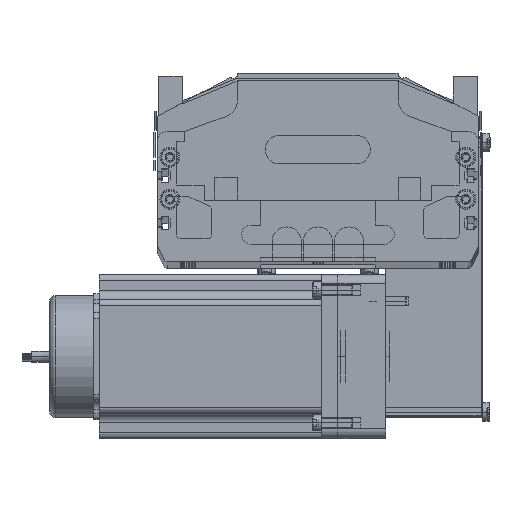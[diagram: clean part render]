
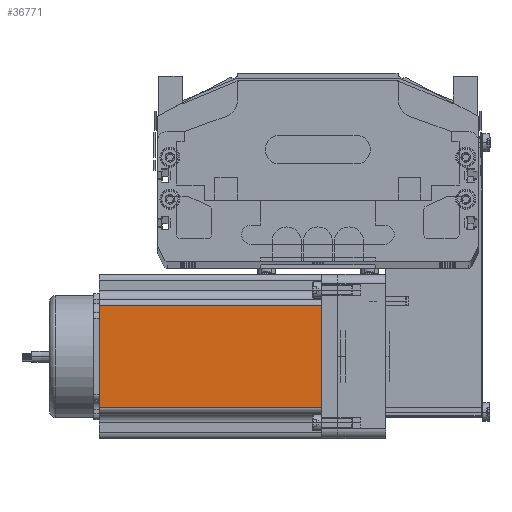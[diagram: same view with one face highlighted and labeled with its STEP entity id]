
A CAD part, top view. The second image highlights one B-rep face of the part: STEP entity #36771.
In plain terms, the highlighted planar face has unit normal (0, 0, 1) as drawn and (0, -1, 0) by its records, which use the part's own axes.
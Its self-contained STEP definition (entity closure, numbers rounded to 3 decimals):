
#36551 = VERTEX_POINT ( 'NONE', #54221 ) ;
#36558 = ORIENTED_EDGE ( 'NONE', *, *, #36779, .T. ) ;
#36562 = EDGE_LOOP ( 'NONE', ( #36558, #36773, #36761, #36783 ) ) ;
#36565 = VERTEX_POINT ( 'NONE', #54280 ) ;
#36752 = VERTEX_POINT ( 'NONE', #54840 ) ;
#36761 = ORIENTED_EDGE ( 'NONE', *, *, #36781, .F. ) ;
#36771 = ADVANCED_FACE ( 'NONE', ( #54887 ), #54805, .F. ) ;
#36773 = ORIENTED_EDGE ( 'NONE', *, *, #36775, .T. ) ;
#36775 = EDGE_CURVE ( 'NONE', #36551, #36565, #54885, .T. ) ;
#36779 = EDGE_CURVE ( 'NONE', #36752, #36551, #54863, .T. ) ;
#36781 = EDGE_CURVE ( 'NONE', #36782, #36565, #54982, .T. ) ;
#36782 = VERTEX_POINT ( 'NONE', #54981 ) ;
#36783 = ORIENTED_EDGE ( 'NONE', *, *, #36784, .T. ) ;
#36784 = EDGE_CURVE ( 'NONE', #36782, #36752, #54975, .T. ) ;
#54221 = CARTESIAN_POINT ( 'NONE',  ( 69.74, 0., 0. ) ) ;
#54280 = CARTESIAN_POINT ( 'NONE',  ( 69.74, 0., 116.5 ) ) ;
#54805 = PLANE ( 'NONE',  #54882 ) ;
#54840 = CARTESIAN_POINT ( 'NONE',  ( 16.16, 0., 0. ) ) ;
#54855 = DIRECTION ( 'NONE',  ( 1., 0., 0. ) ) ;
#54858 = VECTOR ( 'NONE', #54855, 1000. ) ;
#54861 = CARTESIAN_POINT ( 'NONE',  ( 0., 0., 0. ) ) ;
#54863 = LINE ( 'NONE', #54861, #54858 ) ;
#54872 = DIRECTION ( 'NONE',  ( 0., 0., 1. ) ) ;
#54873 = VECTOR ( 'NONE', #54872, 1000. ) ;
#54876 = DIRECTION ( 'NONE',  ( 0., 0., 1. ) ) ;
#54877 = DIRECTION ( 'NONE',  ( 0., 1., 0. ) ) ;
#54878 = CARTESIAN_POINT ( 'NONE',  ( 0., 0., 116.5 ) ) ;
#54882 = AXIS2_PLACEMENT_3D ( 'NONE', #54878, #54877, #54876 ) ;
#54884 = CARTESIAN_POINT ( 'NONE',  ( 69.74, 0., 116.5 ) ) ;
#54885 = LINE ( 'NONE', #54884, #54873 ) ;
#54887 = FACE_OUTER_BOUND ( 'NONE', #36562, .T. ) ;
#54968 = DIRECTION ( 'NONE',  ( 0., 0., -1. ) ) ;
#54970 = VECTOR ( 'NONE', #54968, 1000. ) ;
#54974 = CARTESIAN_POINT ( 'NONE',  ( 16.16, 0., 116.5 ) ) ;
#54975 = LINE ( 'NONE', #54974, #54970 ) ;
#54977 = DIRECTION ( 'NONE',  ( 1., 0., 0. ) ) ;
#54978 = VECTOR ( 'NONE', #54977, 1000. ) ;
#54980 = CARTESIAN_POINT ( 'NONE',  ( 0., 0., 116.5 ) ) ;
#54981 = CARTESIAN_POINT ( 'NONE',  ( 16.16, 0., 116.5 ) ) ;
#54982 = LINE ( 'NONE', #54980, #54978 ) ;
